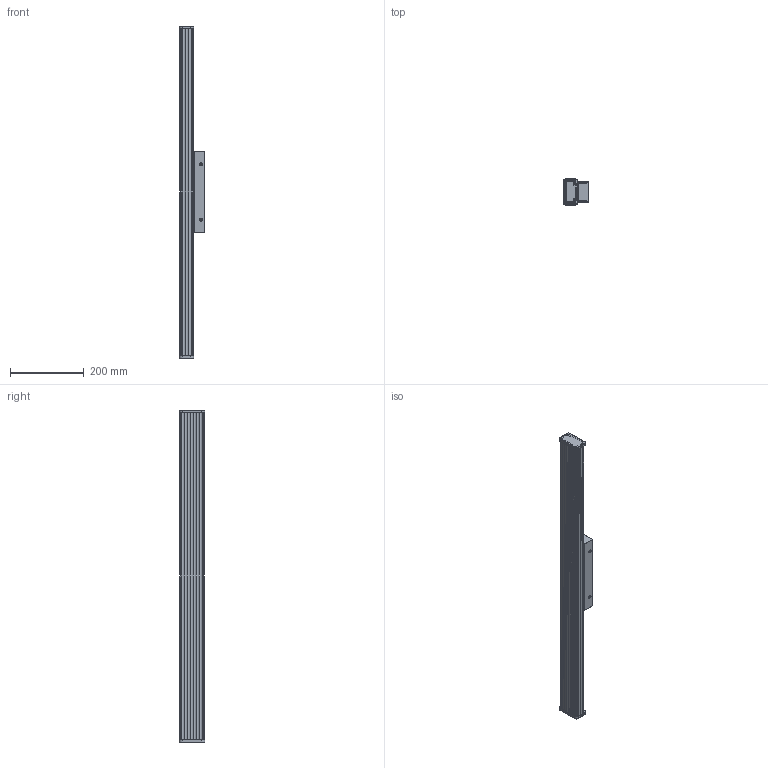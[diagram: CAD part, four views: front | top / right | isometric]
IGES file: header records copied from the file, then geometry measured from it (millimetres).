
Start section: SolidWorks IGES file using analytic representation for surfaces
Global section: file name: \\srvficheros\grupos\DISENYO\DESARROLLO DE PRODUCTO\_3D_WEB\DUNE-A3992170\DUNE-A3992170.IGS; native system: SolidWorks 2025; preprocessor: SolidWorks 2025; author: d.pons; date: 260113.114841; units: millimetre
Bounding box: 69 x 69 x 899 mm (x, y, z)
Surface area: 760699.5 mm2 (no closed solid volume)
Topology: 0 solids, 0 shells, 480 faces, 6428 edges, 6428 vertices
Faces by surface type: revolution 281, bspline 199
